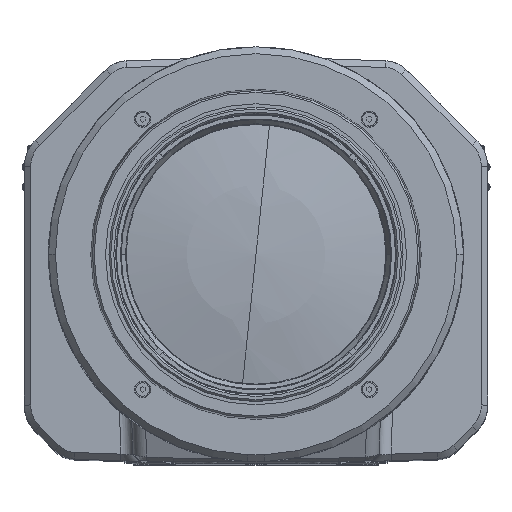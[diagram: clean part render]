
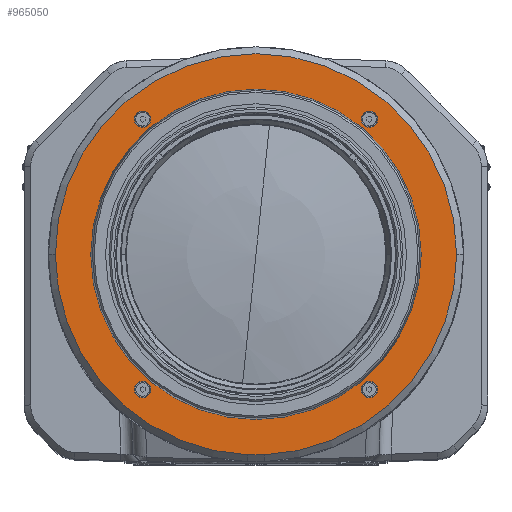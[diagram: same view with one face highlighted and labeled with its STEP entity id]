
A CAD part, top view. The second image highlights one B-rep face of the part: STEP entity #965050.
In plain terms, the highlighted planar face has unit normal (0, 0, 1).
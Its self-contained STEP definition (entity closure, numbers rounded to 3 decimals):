
#963940=CARTESIAN_POINT('',(0.,0.,0.));
#963950=DIRECTION('',(0.,0.,1.));
#963960=DIRECTION('',(0.,-1.,0.));
#963970=AXIS2_PLACEMENT_3D('',#963940,#963950,#963960);
#963980=PLANE('',#963970);
#963990=CARTESIAN_POINT('',(0.,0.,
0.));
#964000=DIRECTION('',(0.,0.,1.));
#964010=DIRECTION('',(0.042,-0.999,0.));
#964020=AXIS2_PLACEMENT_3D('',#963990,#964000,#964010);
#964030=CIRCLE('',#964020,58.);
#964040=CARTESIAN_POINT('',(-58.,0.,
0.));
#964050=VERTEX_POINT('',#964040);
#964060=CARTESIAN_POINT('',(-2.408,-57.95,
0.));
#964070=VERTEX_POINT('',#964060);
#964080=EDGE_CURVE('',#964050,#964070,#964030,.T.);
#964090=ORIENTED_EDGE('',*,*,#964080,.T.);
#964100=CARTESIAN_POINT('',(58.,0.,
0.));
#964110=VERTEX_POINT('',#964100);
#964120=EDGE_CURVE('',#964110,#964050,#964030,.T.);
#964130=ORIENTED_EDGE('',*,*,#964120,.T.);
#964140=CARTESIAN_POINT('',(2.408,-57.95,
0.));
#964150=VERTEX_POINT('',#964140);
#964160=EDGE_CURVE('',#964150,#964110,#964030,.T.);
#964170=ORIENTED_EDGE('',*,*,#964160,.T.);
#964180=CARTESIAN_POINT('',(-2.408,-57.95,
0.));
#964190=DIRECTION('',(1.,0.,0.));
#964200=VECTOR('',#964190,4.816);
#964210=LINE('',#964180,#964200);
#964220=EDGE_CURVE('',#964070,#964150,#964210,.T.);
#964230=ORIENTED_EDGE('',*,*,#964220,.T.);
#964240=EDGE_LOOP('',(#964230,#964170,#964130,#964090));
#964250=FACE_OUTER_BOUND('',#964240,.T.);
#964260=CARTESIAN_POINT('',(0.,0.,0.));
#964270=DIRECTION('',(0.,0.,1.));
#964280=DIRECTION('',(0.,1.,0.));
#964290=AXIS2_PLACEMENT_3D('',#964260,#964270,#964280);
#964300=CIRCLE('',#964290,47.754);
#964310=CARTESIAN_POINT('',(0.,47.754,0.));
#964320=VERTEX_POINT('',#964310);
#964330=CARTESIAN_POINT('',(-47.754,0.,0.));
#964340=VERTEX_POINT('',#964330);
#964350=EDGE_CURVE('',#964320,#964340,#964300,.T.);
#964360=ORIENTED_EDGE('',*,*,#964350,.F.);
#964370=CARTESIAN_POINT('',(47.754,0.,
0.));
#964380=VERTEX_POINT('',#964370);
#964390=EDGE_CURVE('',#964340,#964380,#964300,.T.);
#964400=ORIENTED_EDGE('',*,*,#964390,.F.);
#964410=EDGE_CURVE('',#964380,#964320,#964300,.T.);
#964420=ORIENTED_EDGE('',*,*,#964410,.F.);
#964430=EDGE_LOOP('',(#964420,#964400,#964360));
#964440=FACE_BOUND('',#964430,.T.);
#964450=CARTESIAN_POINT('',(-32.782,39.068,0.));
#964460=DIRECTION('',(0.,0.,1.));
#964470=DIRECTION('',(-1.,0.,0.));
#964480=AXIS2_PLACEMENT_3D('',#964450,#964460,#964470);
#964490=CIRCLE('',#964480,2.365);
#964500=CARTESIAN_POINT('',(-35.147,39.068,
0.));
#964510=VERTEX_POINT('',#964500);
#964520=CARTESIAN_POINT('',(-30.418,39.068,
0.));
#964530=VERTEX_POINT('',#964520);
#964540=EDGE_CURVE('',#964510,#964530,#964490,.T.);
#964550=ORIENTED_EDGE('',*,*,#964540,.F.);
#964560=EDGE_CURVE('',#964530,#964510,#964490,.T.);
#964570=ORIENTED_EDGE('',*,*,#964560,.F.);
#964580=EDGE_LOOP('',(#964570,#964550));
#964590=FACE_BOUND('',#964580,.T.);
#964600=CARTESIAN_POINT('',(-32.782,-39.068,0.));
#964610=DIRECTION('',(0.,0.,1.));
#964620=DIRECTION('',(-1.,0.,0.));
#964630=AXIS2_PLACEMENT_3D('',#964600,#964610,#964620);
#964640=CIRCLE('',#964630,2.365);
#964650=CARTESIAN_POINT('',(-35.147,-39.068,
0.));
#964660=VERTEX_POINT('',#964650);
#964670=CARTESIAN_POINT('',(-30.418,-39.068,
0.));
#964680=VERTEX_POINT('',#964670);
#964690=EDGE_CURVE('',#964660,#964680,#964640,.T.);
#964700=ORIENTED_EDGE('',*,*,#964690,.F.);
#964710=EDGE_CURVE('',#964680,#964660,#964640,.T.);
#964720=ORIENTED_EDGE('',*,*,#964710,.F.);
#964730=EDGE_LOOP('',(#964720,#964700));
#964740=FACE_BOUND('',#964730,.T.);
#964750=CARTESIAN_POINT('',(32.782,-39.068,0.));
#964760=DIRECTION('',(0.,0.,1.));
#964770=DIRECTION('',(-1.,0.,0.));
#964780=AXIS2_PLACEMENT_3D('',#964750,#964760,#964770);
#964790=CIRCLE('',#964780,2.365);
#964800=CARTESIAN_POINT('',(30.418,-39.068,
0.));
#964810=VERTEX_POINT('',#964800);
#964820=CARTESIAN_POINT('',(35.147,-39.068,
0.));
#964830=VERTEX_POINT('',#964820);
#964840=EDGE_CURVE('',#964810,#964830,#964790,.T.);
#964850=ORIENTED_EDGE('',*,*,#964840,.F.);
#964860=EDGE_CURVE('',#964830,#964810,#964790,.T.);
#964870=ORIENTED_EDGE('',*,*,#964860,.F.);
#964880=EDGE_LOOP('',(#964870,#964850));
#964890=FACE_BOUND('',#964880,.T.);
#964900=CARTESIAN_POINT('',(32.782,39.068,0.));
#964910=DIRECTION('',(0.,0.,1.));
#964920=DIRECTION('',(-1.,0.,0.));
#964930=AXIS2_PLACEMENT_3D('',#964900,#964910,#964920);
#964940=CIRCLE('',#964930,2.365);
#964950=CARTESIAN_POINT('',(30.418,39.068,
0.));
#964960=VERTEX_POINT('',#964950);
#964970=CARTESIAN_POINT('',(35.147,39.068,
0.));
#964980=VERTEX_POINT('',#964970);
#964990=EDGE_CURVE('',#964960,#964980,#964940,.T.);
#965000=ORIENTED_EDGE('',*,*,#964990,.F.);
#965010=EDGE_CURVE('',#964980,#964960,#964940,.T.);
#965020=ORIENTED_EDGE('',*,*,#965010,.F.);
#965030=EDGE_LOOP('',(#965020,#965000));
#965040=FACE_BOUND('',#965030,.T.);
#965050=ADVANCED_FACE('',(#964250,#964440,#964590,#964740,#964890,
#965040),#963980,.T.);
